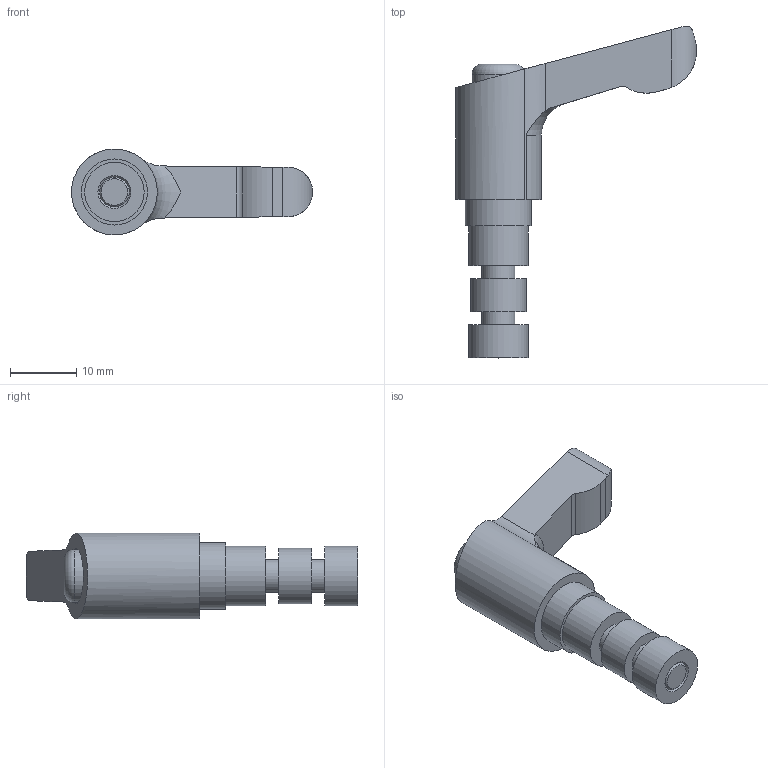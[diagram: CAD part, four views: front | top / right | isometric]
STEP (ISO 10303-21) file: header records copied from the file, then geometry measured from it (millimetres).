
FILE_DESCRIPTION( ( 'STEP AP203' ), '1' );
FILE_NAME( 'C:/Temp/Ganter_Step_05_03_2020/data/3_7/511_1/gn_511_1_k/Swivel clamp mounting GN 511.1-M5-20-K.stp', '2020-03-12T14:38:03', ( 'License CC BY-ND 4.0' ), ( 'CADENAS' ), ' ', 'PARTsolutions', ' ' );
FILE_SCHEMA( ( 'CONFIG_CONTROL_DESIGN' ) );
Length unit declared in the file: millimetre
Products named in the file (1): _Swivel clamp mounting GN 511.1-M5-20-K
Bounding box: 36.5 x 50.28 x 13 mm (x, y, z)
Volume: 5250.1 mm3; surface area: 2630.3 mm2
Topology: 1 solids, 1 shells, 51 faces, 119 edges, 80 vertices
Faces by surface type: cylinder 30, plane 17, torus 2, cone 2
Full cylindrical faces by diameter (mm): 5 x2, 8 x1, 8.3 x1, 8.4 x1, 9 x2, 10 x1
Entity records: 1567 total; most frequent: CARTESIAN_POINT 374, DIRECTION 257, ORIENTED_EDGE 210, AXIS2_PLACEMENT_3D 112, EDGE_CURVE 105, VERTEX_POINT 77, EDGE_LOOP 72, FACE_OUTER_BOUND 60
